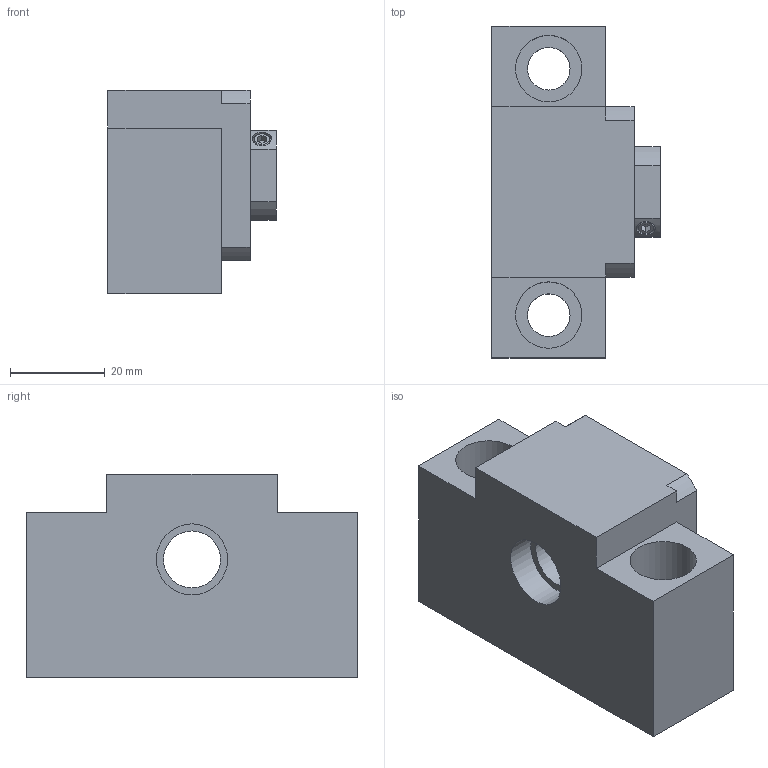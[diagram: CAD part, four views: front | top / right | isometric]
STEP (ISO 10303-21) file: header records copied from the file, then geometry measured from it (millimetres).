
FILE_DESCRIPTION((''),'2;1');
FILE_NAME('D:\製品 (図面)\カタログ用3D\ネジ関連\STEP形式\SUH\SUH12.stp','2010-06-02T14:50:37',('Tsuchiya'),(''),'Autodesk Inventor 10','Autodesk Inventor 10','');
FILE_SCHEMA(('AUTOMOTIVE_DESIGN { 1 0 10303 214 1 1 1 1 }'));
Length unit declared in the file: millimetre
Products named in the file (1): SUH12
Bounding box: 35.5 x 70 x 43 mm (x, y, z)
Volume: 63703.2 mm3; surface area: 16855.8 mm2
Topology: 1 solids, 1 shells, 100 faces, 227 edges, 150 vertices
Faces by surface type: plane 63, cylinder 18, bspline 14, torus 4, cone 1
Full cylindrical faces by diameter (mm): 4 x1, 7 x4, 12 x1, 15 x1, 16.5 x1, 17 x1, 23 x1
Entity records: 2875 total; most frequent: CARTESIAN_POINT 669, DIRECTION 432, ORIENTED_EDGE 408, EDGE_CURVE 204, VERTEX_POINT 150, EDGE_LOOP 150, VECTOR 146, LINE 146
